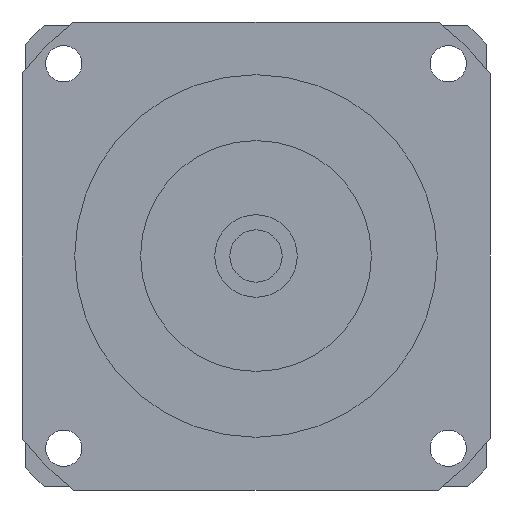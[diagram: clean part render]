
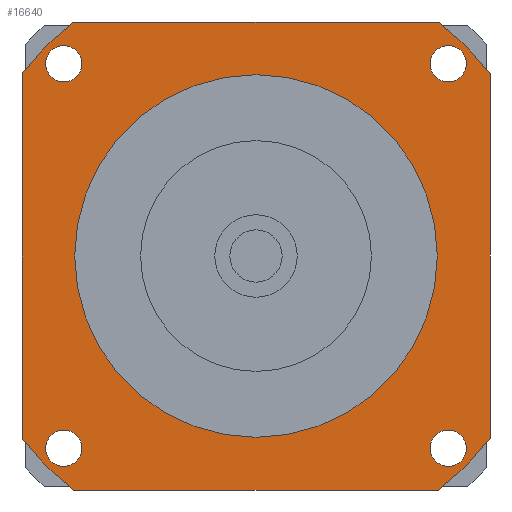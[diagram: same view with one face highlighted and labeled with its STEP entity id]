
A CAD part, left-side view. The second image highlights one B-rep face of the part: STEP entity #16640.
In plain terms, the highlighted planar face has unit normal (-1, 0, 0) as drawn and (0, 0, -1) by its records, which use the part's own axes.
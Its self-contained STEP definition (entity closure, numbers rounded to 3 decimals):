
#12990=CARTESIAN_POINT('',(71.,-55.308,-59.7));
#13000=VERTEX_POINT('',#12990);
#13050=CARTESIAN_POINT('',(0.,0.,
-59.7));
#13060=DIRECTION('',(0.,0.,-1.));
#13070=DIRECTION('',(1.,0.,0.));
#13080=AXIS2_PLACEMENT_3D('',#13050,#13060,#13070);
#13090=CIRCLE('',#13080,90.);
#13100=CARTESIAN_POINT('',(55.308,-71.,-59.7));
#13110=VERTEX_POINT('',#13100);
#13120=EDGE_CURVE('',#13000,#13110,#13090,.T.);
#13410=CARTESIAN_POINT('',(71.,55.308,-59.7));
#13420=VERTEX_POINT('',#13410);
#13470=CARTESIAN_POINT('',(71.,71.,-59.7));
#13480=DIRECTION('',(0.,-1.,0.));
#13490=VECTOR('',#13480,1000.);
#13500=LINE('',#13470,#13490);
#13510=EDGE_CURVE('',#13420,#13000,#13500,.T.);
#15140=CARTESIAN_POINT('',(52.836,-58.336,-59.7));
#15150=VERTEX_POINT('',#15140);
#15180=CARTESIAN_POINT('',(58.336,-58.336,-59.7));
#15190=DIRECTION('',(0.,0.,-1.));
#15200=DIRECTION('',(1.,0.,0.));
#15210=AXIS2_PLACEMENT_3D('',#15180,#15190,#15200);
#15220=CIRCLE('',#15210,5.5);
#15230=CARTESIAN_POINT('',(63.836,-58.336,-59.7));
#15240=VERTEX_POINT('',#15230);
#15250=EDGE_CURVE('',#15240,#15150,#15220,.T.);
#15370=CARTESIAN_POINT('',(71.,71.,-59.7));
#15380=DIRECTION('',(0.,0.,-1.));
#15390=DIRECTION('',(1.,0.,0.));
#15400=AXIS2_PLACEMENT_3D('',#15370,#15380,#15390);
#15410=PLANE('',#15400);
#15420=CARTESIAN_POINT('',(-58.336,-58.336,-59.7));
#15430=DIRECTION('',(0.,0.,-1.));
#15440=DIRECTION('',(0.,-1.,0.));
#15450=AXIS2_PLACEMENT_3D('',#15420,#15430,#15440);
#15460=CIRCLE('',#15450,5.5);
#15470=CARTESIAN_POINT('',(-58.336,-63.836,-59.7));
#15480=VERTEX_POINT('',#15470);
#15490=CARTESIAN_POINT('',(-58.336,-52.836,-59.7));
#15500=VERTEX_POINT('',#15490);
#15510=EDGE_CURVE('',#15480,#15500,#15460,.T.);
#15520=ORIENTED_EDGE('',*,*,#15510,.F.);
#15530=EDGE_CURVE('',#15500,#15480,#15460,.T.);
#15540=ORIENTED_EDGE('',*,*,#15530,.F.);
#15550=EDGE_LOOP('',(#15540,#15520));
#15560=FACE_BOUND('',#15550,.T.);
#15570=CARTESIAN_POINT('',(-58.336,58.336,-59.7));
#15580=DIRECTION('',(0.,0.,-1.));
#15590=DIRECTION('',(-1.,0.,0.));
#15600=AXIS2_PLACEMENT_3D('',#15570,#15580,#15590);
#15610=CIRCLE('',#15600,5.5);
#15620=CARTESIAN_POINT('',(-63.836,58.336,-59.7));
#15630=VERTEX_POINT('',#15620);
#15640=CARTESIAN_POINT('',(-52.836,58.336,-59.7));
#15650=VERTEX_POINT('',#15640);
#15660=EDGE_CURVE('',#15630,#15650,#15610,.T.);
#15670=ORIENTED_EDGE('',*,*,#15660,.F.);
#15680=EDGE_CURVE('',#15650,#15630,#15610,.T.);
#15690=ORIENTED_EDGE('',*,*,#15680,.F.);
#15700=EDGE_LOOP('',(#15690,#15670));
#15710=FACE_BOUND('',#15700,.T.);
#15720=CARTESIAN_POINT('',(58.336,58.336,-59.7));
#15730=DIRECTION('',(0.,0.,-1.));
#15740=DIRECTION('',(0.,1.,0.));
#15750=AXIS2_PLACEMENT_3D('',#15720,#15730,#15740);
#15760=CIRCLE('',#15750,5.5);
#15770=CARTESIAN_POINT('',(58.336,63.836,-59.7));
#15780=VERTEX_POINT('',#15770);
#15790=CARTESIAN_POINT('',(58.336,52.836,-59.7));
#15800=VERTEX_POINT('',#15790);
#15810=EDGE_CURVE('',#15780,#15800,#15760,.T.);
#15820=ORIENTED_EDGE('',*,*,#15810,.F.);
#15830=EDGE_CURVE('',#15800,#15780,#15760,.T.);
#15840=ORIENTED_EDGE('',*,*,#15830,.F.);
#15850=EDGE_LOOP('',(#15840,#15820));
#15860=FACE_BOUND('',#15850,.T.);
#15870=CARTESIAN_POINT('',(0.,0.,
-59.7));
#15880=DIRECTION('',(0.,0.,1.));
#15890=DIRECTION('',(0.,1.,0.));
#15900=AXIS2_PLACEMENT_3D('',#15870,#15880,#15890);
#15910=CIRCLE('',#15900,55.);
#15920=CARTESIAN_POINT('',(-55.,0.,-59.7));
#15930=VERTEX_POINT('',#15920);
#15940=CARTESIAN_POINT('',(55.,0.,-59.7));
#15950=VERTEX_POINT('',#15940);
#15960=EDGE_CURVE('',#15930,#15950,#15910,.T.);
#15970=ORIENTED_EDGE('',*,*,#15960,.T.);
#15980=CARTESIAN_POINT('',(0.,55.,-59.7));
#15990=VERTEX_POINT('',#15980);
#16000=EDGE_CURVE('',#15990,#15930,#15910,.T.);
#16010=ORIENTED_EDGE('',*,*,#16000,.T.);
#16020=EDGE_CURVE('',#15950,#15990,#15910,.T.);
#16030=ORIENTED_EDGE('',*,*,#16020,.T.);
#16040=EDGE_LOOP('',(#16030,#16010,#15970));
#16050=FACE_BOUND('',#16040,.T.);
#16060=CARTESIAN_POINT('',(-71.,71.,-59.7));
#16070=DIRECTION('',(1.,0.,0.));
#16080=VECTOR('',#16070,1000.);
#16090=LINE('',#16060,#16080);
#16100=CARTESIAN_POINT('',(-55.308,71.,-59.7));
#16110=VERTEX_POINT('',#16100);
#16120=CARTESIAN_POINT('',(55.308,71.,-59.7));
#16130=VERTEX_POINT('',#16120);
#16140=EDGE_CURVE('',#16110,#16130,#16090,.T.);
#16150=ORIENTED_EDGE('',*,*,#16140,.T.);
#16160=CARTESIAN_POINT('',(0.,0.,
-59.7));
#16170=DIRECTION('',(0.,0.,-1.));
#16180=DIRECTION('',(1.,0.,0.));
#16190=AXIS2_PLACEMENT_3D('',#16160,#16170,#16180);
#16200=CIRCLE('',#16190,90.);
#16210=CARTESIAN_POINT('',(-71.,55.308,-59.7));
#16220=VERTEX_POINT('',#16210);
#16230=EDGE_CURVE('',#16220,#16110,#16200,.T.);
#16240=ORIENTED_EDGE('',*,*,#16230,.T.);
#16250=CARTESIAN_POINT('',(-71.,-71.,-59.7));
#16260=DIRECTION('',(0.,1.,0.));
#16270=VECTOR('',#16260,1000.);
#16280=LINE('',#16250,#16270);
#16290=CARTESIAN_POINT('',(-71.,-55.308,-59.7));
#16300=VERTEX_POINT('',#16290);
#16310=EDGE_CURVE('',#16300,#16220,#16280,.T.);
#16320=ORIENTED_EDGE('',*,*,#16310,.T.);
#16330=CARTESIAN_POINT('',(0.,0.,
-59.7));
#16340=DIRECTION('',(0.,0.,-1.));
#16350=DIRECTION('',(1.,0.,0.));
#16360=AXIS2_PLACEMENT_3D('',#16330,#16340,#16350);
#16370=CIRCLE('',#16360,90.);
#16380=CARTESIAN_POINT('',(-55.308,-71.,-59.7));
#16390=VERTEX_POINT('',#16380);
#16400=EDGE_CURVE('',#16390,#16300,#16370,.T.);
#16410=ORIENTED_EDGE('',*,*,#16400,.T.);
#16420=CARTESIAN_POINT('',(71.,-71.,-59.7));
#16430=DIRECTION('',(-1.,0.,0.));
#16440=VECTOR('',#16430,1000.);
#16450=LINE('',#16420,#16440);
#16460=EDGE_CURVE('',#13110,#16390,#16450,.T.);
#16470=ORIENTED_EDGE('',*,*,#16460,.T.);
#16480=ORIENTED_EDGE('',*,*,#13120,.T.);
#16490=ORIENTED_EDGE('',*,*,#13510,.T.);
#16500=CARTESIAN_POINT('',(0.,0.,
-59.7));
#16510=DIRECTION('',(0.,0.,-1.));
#16520=DIRECTION('',(1.,0.,0.));
#16530=AXIS2_PLACEMENT_3D('',#16500,#16510,#16520);
#16540=CIRCLE('',#16530,90.);
#16550=EDGE_CURVE('',#16130,#13420,#16540,.T.);
#16560=ORIENTED_EDGE('',*,*,#16550,.T.);
#16570=EDGE_LOOP('',(#16560,#16490,#16480,#16470,#16410,#16320,#16240,
#16150));
#16580=FACE_OUTER_BOUND('',#16570,.T.);
#16590=ORIENTED_EDGE('',*,*,#15250,.F.);
#16600=EDGE_CURVE('',#15150,#15240,#15220,.T.);
#16610=ORIENTED_EDGE('',*,*,#16600,.F.);
#16620=EDGE_LOOP('',(#16610,#16590));
#16630=FACE_BOUND('',#16620,.T.);
#16640=ADVANCED_FACE('',(#15560,#15710,#15860,#16050,#16580,#16630),
#15410,.T.);
